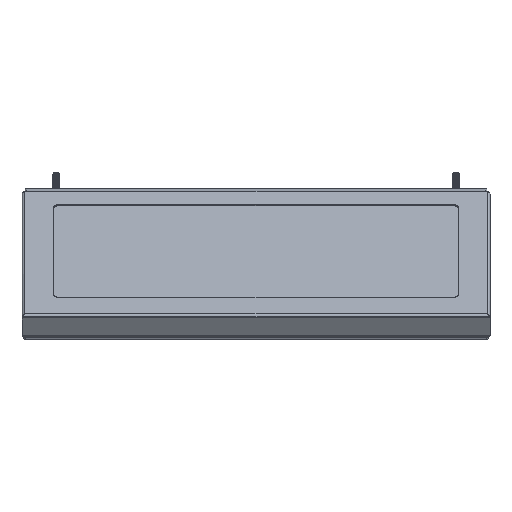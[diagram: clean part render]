
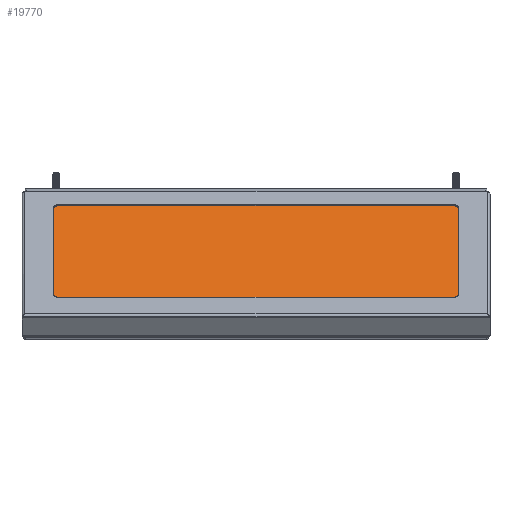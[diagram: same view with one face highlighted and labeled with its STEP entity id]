
A CAD part, top view. The second image highlights one B-rep face of the part: STEP entity #19770.
In plain terms, the highlighted planar face has unit normal (0, 0.819, 0.574).
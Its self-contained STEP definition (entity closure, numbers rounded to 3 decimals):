
#92 = VERTEX_POINT ( 'NONE', #4816 ) ;
#732 = CARTESIAN_POINT ( 'NONE',  ( -180.34, -15.714, 80.231 ) ) ;
#940 = VERTEX_POINT ( 'NONE', #19897 ) ;
#1186 = CARTESIAN_POINT ( 'NONE',  ( -175.565, -12.975, 76.319 ) ) ;
#1315 = DIRECTION ( 'NONE',  ( 0., 0.819, 0.574 ) ) ;
#1349 = ORIENTED_EDGE ( 'NONE', *, *, #20517, .T. ) ;
#2317 = VERTEX_POINT ( 'NONE', #3369 ) ;
#2320 = DIRECTION ( 'NONE',  ( -1., 0., 0. ) ) ;
#3068 = CARTESIAN_POINT ( 'NONE',  ( 175.565, -15.714, 80.231 ) ) ;
#3159 = VECTOR ( 'NONE', #11567, 1000. ) ;
#3369 = CARTESIAN_POINT ( 'NONE',  ( -180.34, -15.714, 80.231 ) ) ;
#3656 = ORIENTED_EDGE ( 'NONE', *, *, #20524, .T. ) ;
#4257 = VERTEX_POINT ( 'NONE', #19364 ) ;
#4718 = DIRECTION ( 'NONE',  ( 0., 0.574, -0.819 ) ) ;
#4816 = CARTESIAN_POINT ( 'NONE',  ( 180.34, -15.714, 80.231 ) ) ;
#5300 = EDGE_CURVE ( 'NONE', #4257, #16177, #21282, .T. ) ;
#5712 = VECTOR ( 'NONE', #9613, 1000. ) ;
#6240 = LINE ( 'NONE', #12912, #5712 ) ;
#6477 = DIRECTION ( 'NONE',  ( 0., 0.819, 0.574 ) ) ;
#6860 = CARTESIAN_POINT ( 'NONE',  ( 180.34, -93.278, 191.004 ) ) ;
#7305 = FACE_OUTER_BOUND ( 'NONE', #9614, .T. ) ;
#7506 = EDGE_CURVE ( 'NONE', #16397, #2317, #20172, .T. ) ;
#7766 = CARTESIAN_POINT ( 'NONE',  ( 175.565, -93.278, 191.004 ) ) ;
#8246 = ORIENTED_EDGE ( 'NONE', *, *, #7506, .T. ) ;
#8298 = ORIENTED_EDGE ( 'NONE', *, *, #5300, .T. ) ;
#8999 = VERTEX_POINT ( 'NONE', #12580 ) ;
#9289 = CARTESIAN_POINT ( 'NONE',  ( -175.565, -93.278, 191.004 ) ) ;
#9367 = LINE ( 'NONE', #18804, #13721 ) ;
#9412 = DIRECTION ( 'NONE',  ( 0., -0.574, 0.819 ) ) ;
#9507 = EDGE_CURVE ( 'NONE', #940, #12759, #16236, .T. ) ;
#9613 = DIRECTION ( 'NONE',  ( 0., 0.574, -0.819 ) ) ;
#9614 = EDGE_LOOP ( 'NONE', ( #9743, #15273, #8298, #3656, #1349, #13600, #8246, #18452 ) ) ;
#9743 = ORIENTED_EDGE ( 'NONE', *, *, #9507, .T. ) ;
#9817 = CARTESIAN_POINT ( 'NONE',  ( -175.565, -96.017, 194.916 ) ) ;
#10931 = DIRECTION ( 'NONE',  ( 0., -0.574, 0.819 ) ) ;
#11142 = CARTESIAN_POINT ( 'NONE',  ( -175.565, -93.278, 191.004 ) ) ;
#11567 = DIRECTION ( 'NONE',  ( 1., 0., 0. ) ) ;
#12577 = AXIS2_PLACEMENT_3D ( 'NONE', #11142, #1315, #12804 ) ;
#12580 = CARTESIAN_POINT ( 'NONE',  ( 175.565, -12.975, 76.319 ) ) ;
#12635 = LINE ( 'NONE', #732, #16492 ) ;
#12759 = VERTEX_POINT ( 'NONE', #9817 ) ;
#12804 = DIRECTION ( 'NONE',  ( 0., -0.574, 0.819 ) ) ;
#12864 = AXIS2_PLACEMENT_3D ( 'NONE', #3068, #14575, #4718 ) ;
#12912 = CARTESIAN_POINT ( 'NONE',  ( 180.34, -15.714, 80.231 ) ) ;
#13600 = ORIENTED_EDGE ( 'NONE', *, *, #19588, .T. ) ;
#13721 = VECTOR ( 'NONE', #2320, 1000. ) ;
#14379 = PLANE ( 'NONE',  #12577 ) ;
#14406 = EDGE_CURVE ( 'NONE', #2317, #940, #12635, .T. ) ;
#14458 = CIRCLE ( 'NONE', #12864, 4.775 ) ;
#14575 = DIRECTION ( 'NONE',  ( 0., 0.819, 0.574 ) ) ;
#14844 = CARTESIAN_POINT ( 'NONE',  ( -175.565, -96.017, 194.916 ) ) ;
#14895 = AXIS2_PLACEMENT_3D ( 'NONE', #16336, #6477, #18001 ) ;
#15273 = ORIENTED_EDGE ( 'NONE', *, *, #19991, .T. ) ;
#16177 = VERTEX_POINT ( 'NONE', #6860 ) ;
#16236 = CIRCLE ( 'NONE', #17895, 4.775 ) ;
#16336 = CARTESIAN_POINT ( 'NONE',  ( -175.565, -15.714, 80.231 ) ) ;
#16397 = VERTEX_POINT ( 'NONE', #1186 ) ;
#16492 = VECTOR ( 'NONE', #18794, 1000. ) ;
#17895 = AXIS2_PLACEMENT_3D ( 'NONE', #9289, #20823, #10931 ) ;
#18001 = DIRECTION ( 'NONE',  ( 0., -0.574, 0.819 ) ) ;
#18332 = AXIS2_PLACEMENT_3D ( 'NONE', #7766, #19280, #9412 ) ;
#18452 = ORIENTED_EDGE ( 'NONE', *, *, #14406, .T. ) ;
#18794 = DIRECTION ( 'NONE',  ( 0., -0.574, 0.819 ) ) ;
#18804 = CARTESIAN_POINT ( 'NONE',  ( -175.565, -12.975, 76.319 ) ) ;
#19280 = DIRECTION ( 'NONE',  ( 0., 0.819, 0.574 ) ) ;
#19364 = CARTESIAN_POINT ( 'NONE',  ( 175.565, -96.017, 194.916 ) ) ;
#19588 = EDGE_CURVE ( 'NONE', #8999, #16397, #9367, .T. ) ;
#19770 = ADVANCED_FACE ( 'NONE', ( #7305 ), #14379, .T. ) ;
#19897 = CARTESIAN_POINT ( 'NONE',  ( -180.34, -93.278, 191.004 ) ) ;
#19991 = EDGE_CURVE ( 'NONE', #12759, #4257, #20170, .T. ) ;
#20170 = LINE ( 'NONE', #14844, #3159 ) ;
#20172 = CIRCLE ( 'NONE', #14895, 4.775 ) ;
#20517 = EDGE_CURVE ( 'NONE', #92, #8999, #14458, .T. ) ;
#20524 = EDGE_CURVE ( 'NONE', #16177, #92, #6240, .T. ) ;
#20823 = DIRECTION ( 'NONE',  ( 0., 0.819, 0.574 ) ) ;
#21282 = CIRCLE ( 'NONE', #18332, 4.775 ) ;
